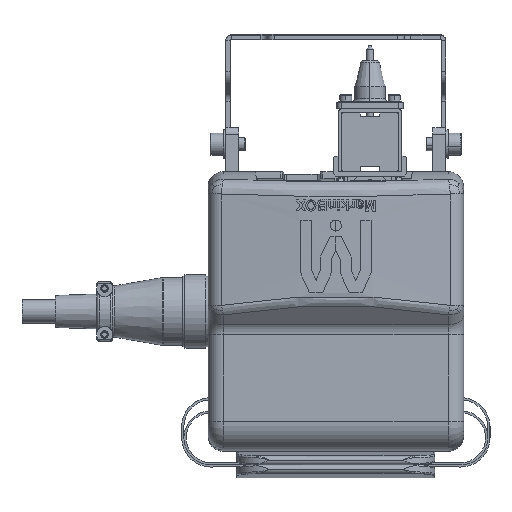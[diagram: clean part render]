
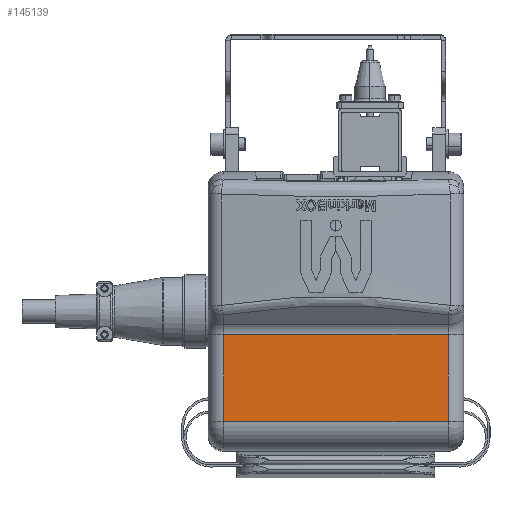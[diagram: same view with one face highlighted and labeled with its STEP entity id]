
A CAD part, front view. The second image highlights one B-rep face of the part: STEP entity #145139.
In plain terms, the highlighted planar face has unit normal (0, -1, 0).
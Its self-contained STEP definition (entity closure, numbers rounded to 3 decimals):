
#810 = CARTESIAN_POINT ( 'NONE',  ( 139.21, -74.431, 78.359 ) ) ;
#979 = EDGE_CURVE ( 'NONE', #34220, #55304, #111796, .T. ) ;
#5952 = CARTESIAN_POINT ( 'NONE',  ( 87.71, -74.431, 77.859 ) ) ;
#17853 = CARTESIAN_POINT ( 'NONE',  ( 138.71, -74.431, 58.107 ) ) ;
#18735 = ORIENTED_EDGE ( 'NONE', *, *, #86478, .T. ) ;
#34220 = VERTEX_POINT ( 'NONE', #85244 ) ;
#35554 = VERTEX_POINT ( 'NONE', #121587 ) ;
#35958 = DIRECTION ( 'NONE',  ( 0., -1., 0. ) ) ;
#38325 = PLANE ( 'NONE',  #151093 ) ;
#38400 = DIRECTION ( 'NONE',  ( -1., 0., 0. ) ) ;
#48077 = LINE ( 'NONE', #17853, #49420 ) ;
#49420 = VECTOR ( 'NONE', #140201, 1000. ) ;
#55035 = VECTOR ( 'NONE', #100824, 1000. ) ;
#55304 = VERTEX_POINT ( 'NONE', #139039 ) ;
#64923 = CARTESIAN_POINT ( 'NONE',  ( 36.71, -74.431, 58.107 ) ) ;
#68769 = DIRECTION ( 'NONE',  ( 1., 0., 0. ) ) ;
#74924 = ORIENTED_EDGE ( 'NONE', *, *, #105822, .F. ) ;
#75112 = CARTESIAN_POINT ( 'NONE',  ( 87.71, -74.431, 38.355 ) ) ;
#75186 = ORIENTED_EDGE ( 'NONE', *, *, #81435, .F. ) ;
#81435 = EDGE_CURVE ( 'NONE', #35554, #132712, #119293, .T. ) ;
#83345 = VECTOR ( 'NONE', #68769, 1000. ) ;
#85244 = CARTESIAN_POINT ( 'NONE',  ( 138.71, -74.431, 38.355 ) ) ;
#86478 = EDGE_CURVE ( 'NONE', #34220, #132712, #48077, .T. ) ;
#86766 = EDGE_LOOP ( 'NONE', ( #128468, #18735, #75186, #74924 ) ) ;
#87289 = DIRECTION ( 'NONE',  ( -1., 0., 0. ) ) ;
#100824 = DIRECTION ( 'NONE',  ( 0., 0., 1. ) ) ;
#104050 = LINE ( 'NONE', #64923, #55035 ) ;
#105822 = EDGE_CURVE ( 'NONE', #55304, #35554, #104050, .T. ) ;
#110943 = FACE_OUTER_BOUND ( 'NONE', #86766, .T. ) ;
#111796 = LINE ( 'NONE', #75112, #128558 ) ;
#119293 = LINE ( 'NONE', #5952, #83345 ) ;
#121587 = CARTESIAN_POINT ( 'NONE',  ( 36.71, -74.431, 77.859 ) ) ;
#128468 = ORIENTED_EDGE ( 'NONE', *, *, #979, .F. ) ;
#128558 = VECTOR ( 'NONE', #38400, 1000. ) ;
#132712 = VERTEX_POINT ( 'NONE', #159100 ) ;
#139039 = CARTESIAN_POINT ( 'NONE',  ( 36.71, -74.431, 38.355 ) ) ;
#140201 = DIRECTION ( 'NONE',  ( 0., 0., 1. ) ) ;
#145139 = ADVANCED_FACE ( 'NONE', ( #110943 ), #38325, .T. ) ;
#151093 = AXIS2_PLACEMENT_3D ( 'NONE', #810, #35958, #87289 ) ;
#159100 = CARTESIAN_POINT ( 'NONE',  ( 138.71, -74.431, 77.859 ) ) ;
